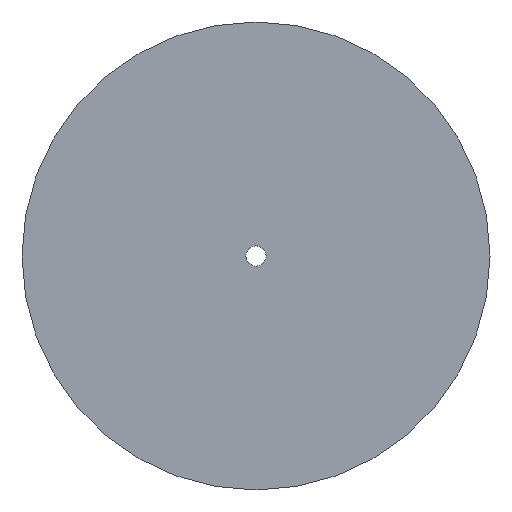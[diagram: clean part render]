
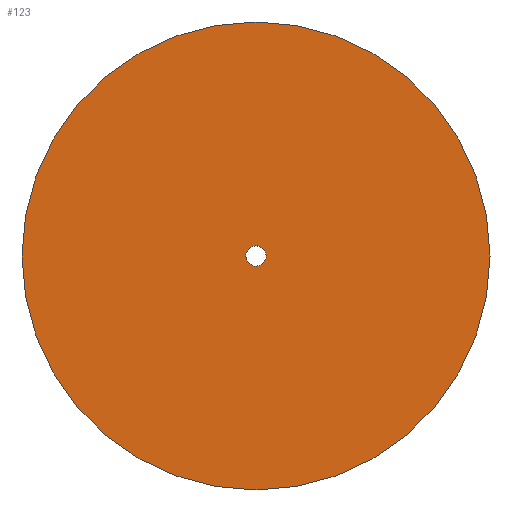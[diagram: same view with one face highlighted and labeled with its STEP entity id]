
A CAD part, top view. The second image highlights one B-rep face of the part: STEP entity #123.
In plain terms, the highlighted planar face has unit normal (0, 0, 1).
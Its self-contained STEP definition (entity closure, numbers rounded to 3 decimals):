
#62=CARTESIAN_POINT('Vertex',(-2.852,1.558,0.)) ;
#76=CARTESIAN_POINT('Vertex',(2.852,-1.558,0.)) ;
#79=CARTESIAN_POINT('Axis2P3D Location',(0.,0.,0.)) ;
#91=CARTESIAN_POINT('Axis2P3D Location',(0.,0.,0.)) ;
#96=CARTESIAN_POINT('Axis2P3D Location',(0.,0.,0.)) ;
#100=CARTESIAN_POINT('Vertex',(75.,0.,0.)) ;
#102=CARTESIAN_POINT('Vertex',(-75.,0.,0.)) ;
#105=CARTESIAN_POINT('Axis2P3D Location',(0.,0.,0.)) ;
#114=CARTESIAN_POINT('Axis2P3D Location',(0.,0.,0.)) ;
#80=DIRECTION('Axis2P3D Direction',(0.,-0.,-1.)) ;
#92=DIRECTION('Axis2P3D Direction',(0.,0.,1.)) ;
#93=DIRECTION('Axis2P3D XDirection',(1.,0.,0.)) ;
#97=DIRECTION('Axis2P3D Direction',(0.,0.,1.)) ;
#106=DIRECTION('Axis2P3D Direction',(0.,0.,1.)) ;
#115=DIRECTION('Axis2P3D Direction',(0.,0.,1.)) ;
#81=AXIS2_PLACEMENT_3D('Circle Axis2P3D',#79,#80,$) ;
#94=AXIS2_PLACEMENT_3D('Plane Axis2P3D',#91,#92,#93) ;
#98=AXIS2_PLACEMENT_3D('Circle Axis2P3D',#96,#97,$) ;
#107=AXIS2_PLACEMENT_3D('Circle Axis2P3D',#105,#106,$) ;
#116=AXIS2_PLACEMENT_3D('Circle Axis2P3D',#114,#115,$) ;
#111=ORIENTED_EDGE('',*,*,#104,.F.) ;
#112=ORIENTED_EDGE('',*,*,#109,.F.) ;
#120=ORIENTED_EDGE('',*,*,#118,.F.) ;
#121=ORIENTED_EDGE('',*,*,#83,.F.) ;
#122=FACE_BOUND('',#119,.T.) ;
#123=ADVANCED_FACE('PartBody',(#113,#122),#95,.T.) ;
#82=CIRCLE('generated circle',#81,3.25) ;
#99=CIRCLE('generated circle',#98,75.) ;
#108=CIRCLE('generated circle',#107,75.) ;
#117=CIRCLE('generated circle',#116,3.25) ;
#83=EDGE_CURVE('',#77,#63,#82,.F.) ;
#104=EDGE_CURVE('',#101,#103,#99,.F.) ;
#109=EDGE_CURVE('',#103,#101,#108,.F.) ;
#118=EDGE_CURVE('',#63,#77,#117,.T.) ;
#110=EDGE_LOOP('',(#111,#112)) ;
#119=EDGE_LOOP('',(#120,#121)) ;
#113=FACE_OUTER_BOUND('',#110,.T.) ;
#95=PLANE('',#94) ;
#63=VERTEX_POINT('',#62) ;
#77=VERTEX_POINT('',#76) ;
#101=VERTEX_POINT('',#100) ;
#103=VERTEX_POINT('',#102) ;
